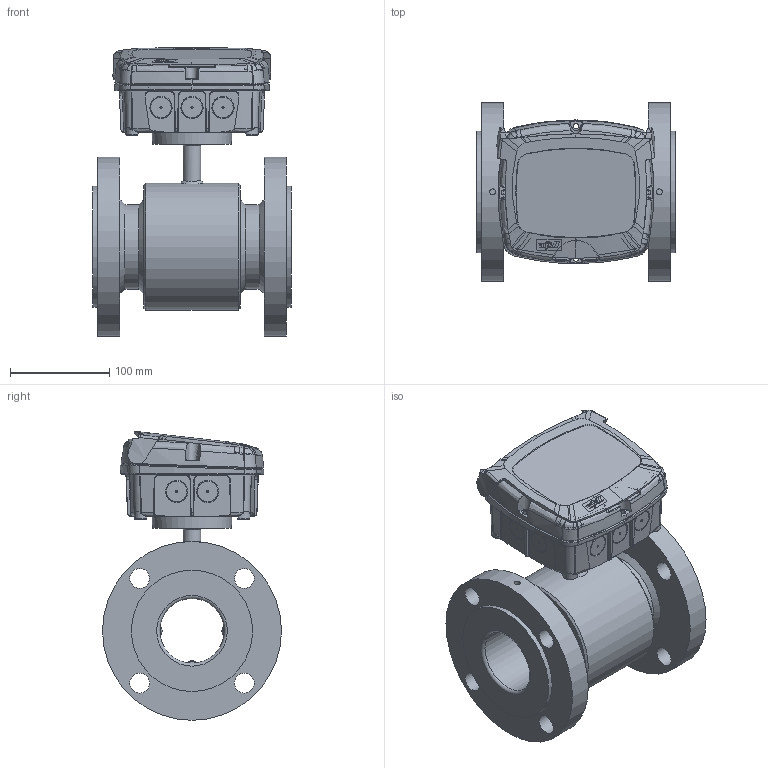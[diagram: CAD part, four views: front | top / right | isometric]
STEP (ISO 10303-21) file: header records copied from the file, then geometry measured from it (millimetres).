
FILE_DESCRIPTION((''),'2;1');
FILE_NAME('C:\Users\Claus\Dropbox\Projects 2011 - 2012\MJK Automation AS\DN 65 - ANSI B16,5.stp','2014-10-24T15:19:20',('Claus'),(''),'Autodesk Inventor 2013','Autodesk Inventor 2013','');
FILE_SCHEMA(('AUTOMOTIVE_DESIGN { 1 0 10303 214 1 1 1 1 }'));
Length unit declared in the file: millimetre
Products named in the file (7): DN 65 - ANSI B16,5; FC_MagFlux_assembly_r1; CH Bund ml; FC Top rev 06.04; CH 03.02; Electrode group DN15 - DN32
Assembly tree (8 placements, depth 3):
  DN 65 - ANSI B16,5
    DN 65 - ANSI B16,5
    FC_MagFlux_assembly_r1
      CH Bund ml
      FC Top rev 06.04
      CH 03.02
    Electrode group DN15 - DN32  x3
Bounding box: 200 x 180 x 290.34 mm (x, y, z)
Volume: 2448426.9 mm3; surface area: 475288.8 mm2
Topology: 10 solids, 10 shells, 2927 faces, 7970 edges, 5187 vertices
Faces by surface type: bspline 1752, plane 810, cylinder 202, cone 123, torus 25, revolution 9, sphere 6
Full cylindrical faces by diameter (mm): 2.5 x3, 3 x6, 4 x1, 6 x2, 6.5 x4, 7.042 x4, 8 x3, 8.048 x4, 12.072 x4, 15 x1, 18 x1, 18.108 x1, 20 x8, 64 x1, 65 x1, 85 x2, 122 x2, 128 x1, 180 x2
Entity records: 233788 total; most frequent: CARTESIAN_POINT 171524, ORIENTED_EDGE 15464, EDGE_CURVE 7732, DIRECTION 7709, VERTEX_POINT 5125, EDGE_LOOP 3241, VECTOR 3112, LINE 3112
